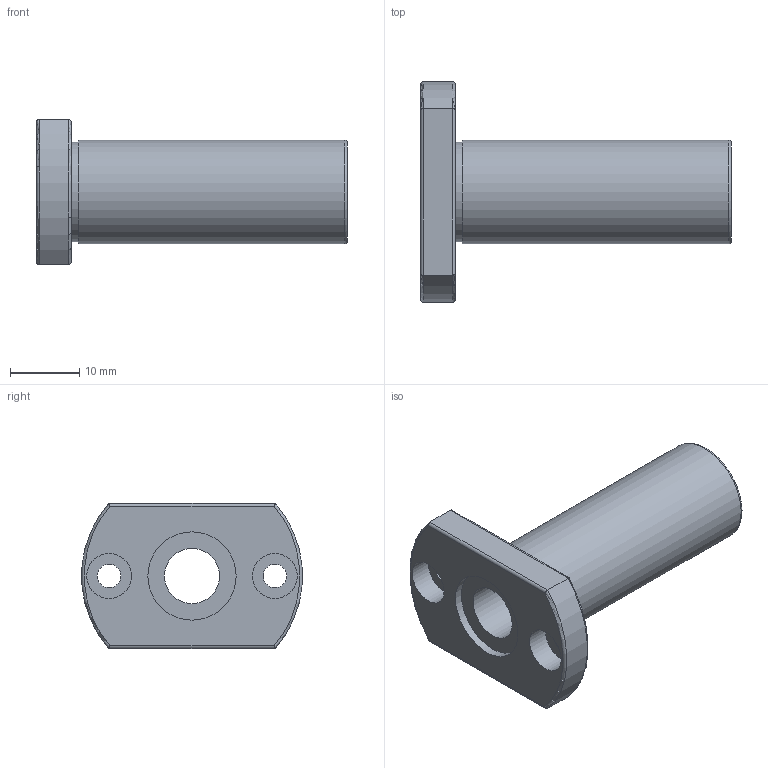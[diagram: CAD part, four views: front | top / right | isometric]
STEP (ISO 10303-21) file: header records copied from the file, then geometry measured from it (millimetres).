
FILE_DESCRIPTION( ( 'Unknown' ), '1' );
FILE_NAME( 'D:/累诀/己绕皋墨飘肺葱胶/11-04-06_档搁累己/01_府聪绢何教/LMH L/LMH 8L.stp', 'Unknown', ( 'Unknown' ), ( 'Unknown' ), 'PSStep 11.0', 'Unknown', ' ' );
FILE_SCHEMA( ( 'AUTOMOTIVE_DESIGN { 1 0 10303 214 1 1 1 1 }' ) );
Length unit declared in the file: millimetre
Products named in the file (1): 1
Bounding box: 45 x 31.9 x 21 mm (x, y, z)
Volume: 7447.3 mm3; surface area: 4782.1 mm2
Topology: 1 solids, 1 shells, 30 faces, 61 edges, 39 vertices
Faces by surface type: cylinder 15, plane 10, torus 5
Full cylindrical faces by diameter (mm): 3.4 x2, 6.5 x2, 8 x1, 12.791 x2, 14.4 x1, 15 x1
Entity records: 998 total; most frequent: CARTESIAN_POINT 153, DIRECTION 128, ORIENTED_EDGE 94, AXIS2_PLACEMENT_3D 58, EDGE_LOOP 52, EDGE_CURVE 47, FACE_OUTER_BOUND 40, VERTEX_POINT 35
